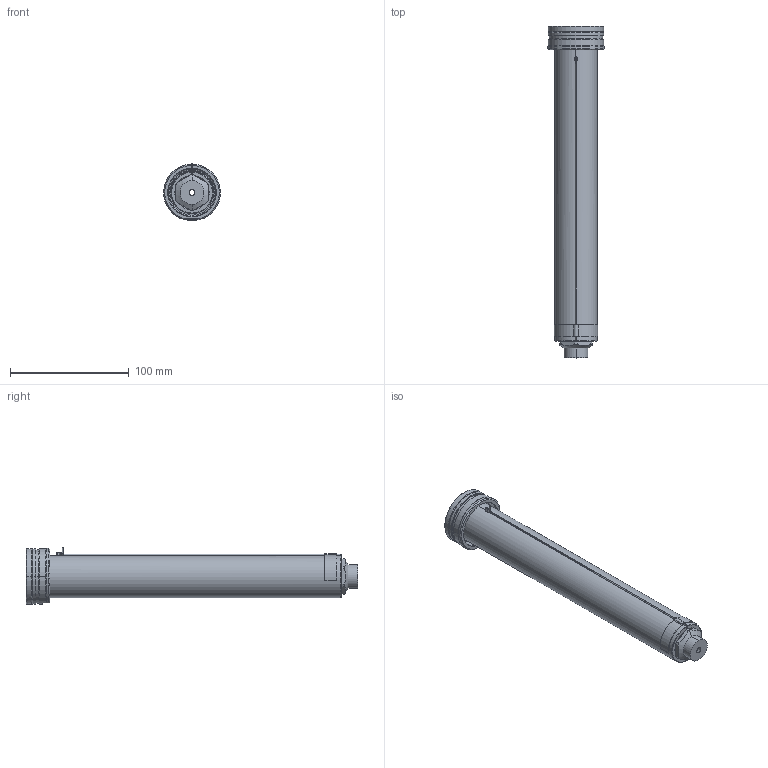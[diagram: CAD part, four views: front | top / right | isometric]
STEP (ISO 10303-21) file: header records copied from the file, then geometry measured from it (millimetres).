
FILE_DESCRIPTION((''),'2;1');
FILE_NAME('EO16_VG-FB_STD_260_SW','2024-02-19T13:44:04',('sundharh'),(''),'CREO PARAMETRIC BY PTC INC, 2023154','CREO PARAMETRIC BY PTC INC, 2023154','');
FILE_SCHEMA(('CONFIG_CONTROL_DESIGN'));
Length unit declared in the file: millimetre
Products named in the file (1): EO16_VG-FB_STD_260_SW
Bounding box: 47.97 x 280 x 48 mm (x, y, z)
Volume: 226782.2 mm3; surface area: 54350.8 mm2
Topology: 1 solids, 1 shells, 197 faces, 474 edges, 286 vertices
Faces by surface type: cylinder 72, plane 47, cone 39, torus 24, bspline 13, sphere 2
Entity records: 6705 total; most frequent: CARTESIAN_POINT 2025, DIRECTION 1054, ORIENTED_EDGE 936, EDGE_CURVE 468, AXIS2_PLACEMENT_3D 442, VERTEX_POINT 286, CIRCLE 258, EDGE_LOOP 214
